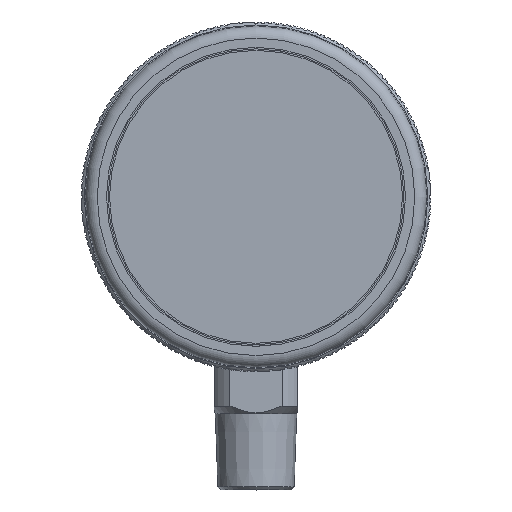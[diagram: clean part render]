
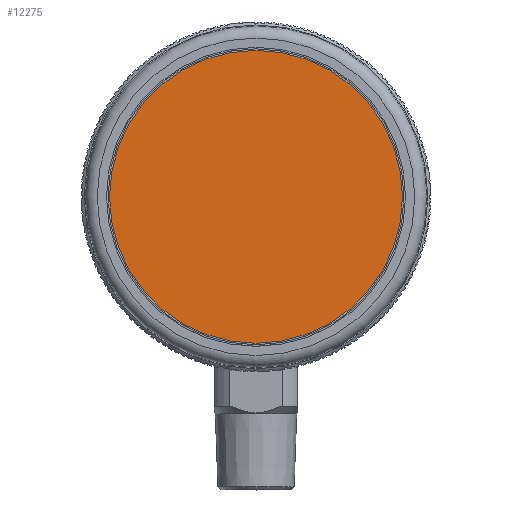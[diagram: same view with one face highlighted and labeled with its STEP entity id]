
A CAD part, top view. The second image highlights one B-rep face of the part: STEP entity #12275.
In plain terms, the highlighted planar face has unit normal (0, 0, 1) as drawn and (-1, 0, 0) by its records, which use the part's own axes.
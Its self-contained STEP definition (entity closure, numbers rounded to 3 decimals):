
#503=PLANE('',#13424);
#1119=FACE_OUTER_BOUND('',#1741,.T.);
#1741=EDGE_LOOP('',(#11505));
#4873=CIRCLE('',#13423,24.501);
#6078=VERTEX_POINT('',#23108);
#7886=EDGE_CURVE('',#6078,#6078,#4873,.T.);
#11505=ORIENTED_EDGE('',*,*,#7886,.F.);
#12275=ADVANCED_FACE('',(#1119),#503,.T.);
#13423=AXIS2_PLACEMENT_3D('',#23109,#16938,#16939);
#13424=AXIS2_PLACEMENT_3D('',#23111,#16941,#16942);
#16938=DIRECTION('center_axis',(1.,0.,0.));
#16939=DIRECTION('ref_axis',(0.,0.,1.));
#16941=DIRECTION('center_axis',(-1.,0.,0.));
#16942=DIRECTION('ref_axis',(0.,0.,1.));
#23108=CARTESIAN_POINT('',(169.936,108.808,-24.501));
#23109=CARTESIAN_POINT('Origin',(169.936,108.808,0.));
#23111=CARTESIAN_POINT('Origin',(169.936,108.808,0.));
